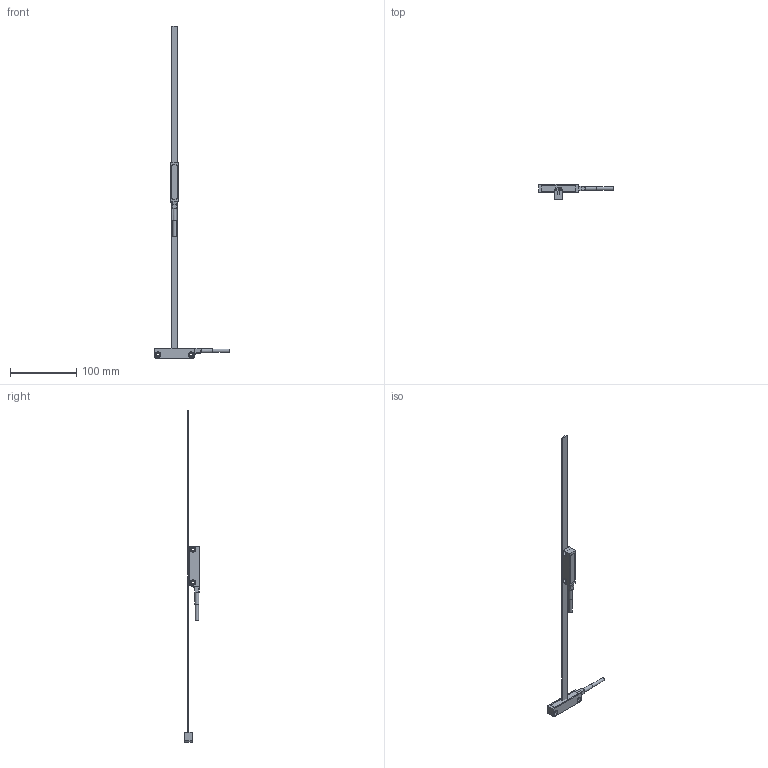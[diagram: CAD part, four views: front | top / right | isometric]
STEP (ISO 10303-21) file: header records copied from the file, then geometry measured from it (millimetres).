
FILE_DESCRIPTION( ( 'STEP AP203' ), '1' );
FILE_NAME( 'N:/Engineering/CAD_Solid/Magnetband/MB/MB-400-2-ST_MB-LK-2552-KA.stp', '2012-05-24T14:48:07', ( ' ' ), ( ' ' ), 'XStep 1.0', ' ', ' ' );
FILE_SCHEMA( ( 'CONFIG_CONTROL_DESIGN) ( )' ) );
Length unit declared in the file: metre
Products named in the file (3): Assem1; 1; 2
Bounding box: 112.5 x 23 x 500 mm (x, y, z)
Volume: 37372.5 mm3; surface area: 33076.4 mm2
Topology: 4 solids, 4 shells, 208 faces, 516 edges, 324 vertices
Faces by surface type: plane 102, cylinder 70, cone 10, bspline 10, torus 10, sphere 6
Full cylindrical faces by diameter (mm): 4.5 x4, 5.1 x2, 6 x2, 8 x8
Entity records: 3231 total; most frequent: CARTESIAN_POINT 715, DIRECTION 517, ORIENTED_EDGE 462, EDGE_CURVE 231, AXIS2_PLACEMENT_3D 190, VERTEX_POINT 151, LINE 137, VECTOR 137
